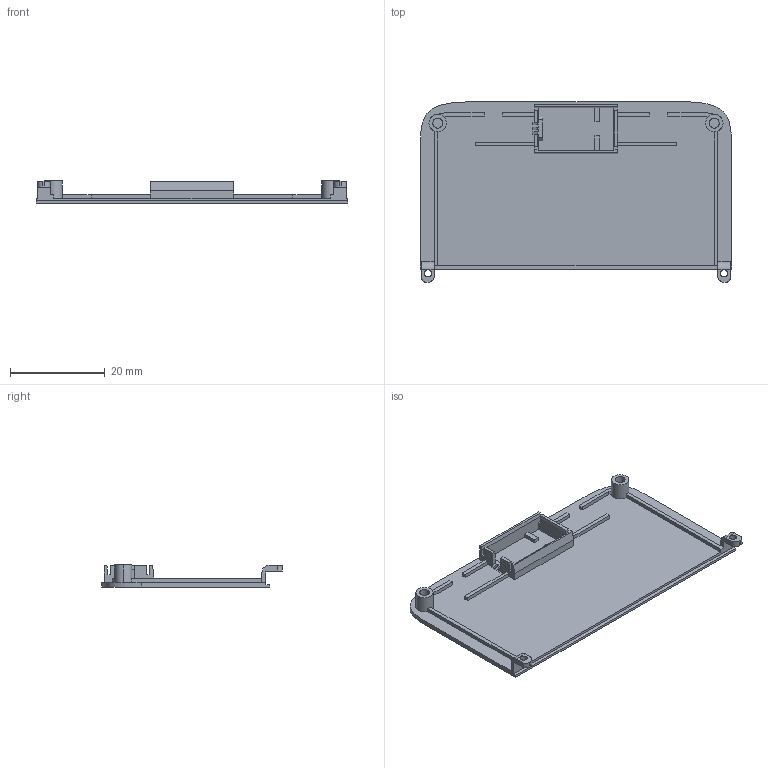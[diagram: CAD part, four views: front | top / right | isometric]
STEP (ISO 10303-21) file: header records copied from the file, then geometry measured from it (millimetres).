
FILE_DESCRIPTION (( 'STEP AP214' ), '1' );
FILE_NAME ('radome-pvt2b.STEP', '2020-12-28T13:24:26', ( '' ), ( '' ), 'SwSTEP 2.0', 'SolidWorks 2019', '' );
FILE_SCHEMA (( 'AUTOMOTIVE_DESIGN' ));
Length unit declared in the file: millimetre
Products named in the file (1): radome-pvt2b
Bounding box: 65.8 x 38.2 x 4.7 mm (x, y, z)
Volume: 2549.8 mm3; surface area: 5616 mm2
Topology: 1 solids, 1 shells, 140 faces, 401 edges, 266 vertices
Faces by surface type: plane 118, cylinder 20, bspline 2
Entity records: 4639 total; most frequent: CARTESIAN_POINT 898, ORIENTED_EDGE 802, DIRECTION 723, EDGE_CURVE 401, LINE 349, VECTOR 349, VERTEX_POINT 266, AXIS2_PLACEMENT_3D 187
